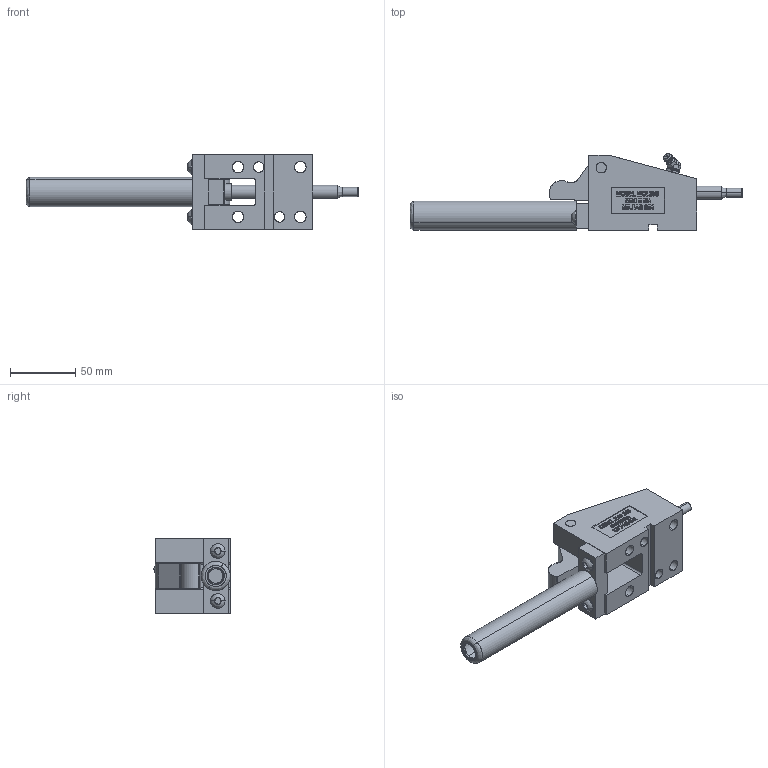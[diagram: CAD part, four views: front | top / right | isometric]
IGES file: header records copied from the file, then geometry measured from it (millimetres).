
Start section: SolidWorks IGES file using analytic representation for surfaces
Global section: file name: Y:\3\MOL37545\CLOSED\MOL37545-C.IGS; native system: SolidWorks 2006 by SolidWorks Corporation; preprocessor: SolidWorks 2006 by SolidWorks Corporation; author: Jim; date: 090125.180816; units: inch
Bounding box: 253.59 x 58.4 x 57.15 mm (x, y, z)
Surface area: 70530.9 mm2 (no closed solid volume)
Topology: 0 solids, 0 shells, 599 faces, 7561 edges, 7559 vertices
Faces by surface type: bspline 473, revolution 126
